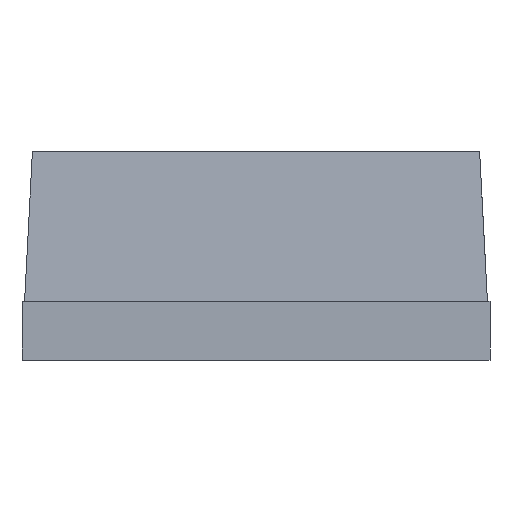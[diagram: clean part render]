
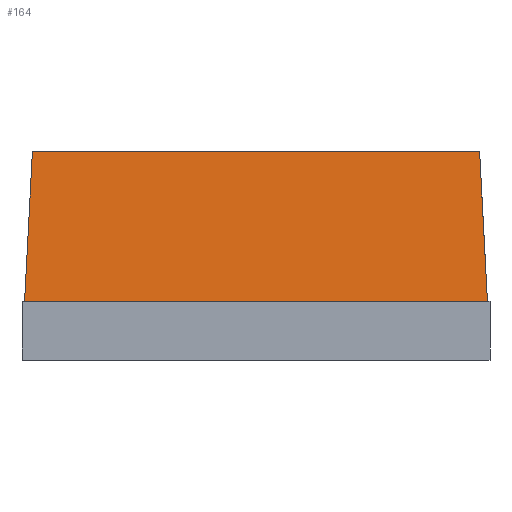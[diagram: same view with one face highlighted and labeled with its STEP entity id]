
A CAD part, front view. The second image highlights one B-rep face of the part: STEP entity #164.
In plain terms, the highlighted planar face has unit normal (0, -0.996, 0.087).
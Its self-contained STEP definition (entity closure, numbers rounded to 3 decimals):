
#164=ADVANCED_FACE('',(#295),#230,.T.);
#230=PLANE('',#1465);
#295=FACE_OUTER_BOUND('',#358,.T.);
#358=EDGE_LOOP('',(#471,#472,#473,#474,#475,#476,#477,#478));
#471=ORIENTED_EDGE('',*,*,#929,.F.);
#472=ORIENTED_EDGE('',*,*,#946,.T.);
#473=ORIENTED_EDGE('',*,*,#923,.T.);
#474=ORIENTED_EDGE('',*,*,#919,.T.);
#475=ORIENTED_EDGE('',*,*,#912,.F.);
#476=ORIENTED_EDGE('',*,*,#921,.T.);
#477=ORIENTED_EDGE('',*,*,#926,.T.);
#478=ORIENTED_EDGE('',*,*,#947,.T.);
#786=VERTEX_POINT('',#1847);
#787=VERTEX_POINT('',#1849);
#793=VERTEX_POINT('',#1863);
#794=VERTEX_POINT('',#1867);
#795=VERTEX_POINT('',#1871);
#796=VERTEX_POINT('',#1875);
#799=VERTEX_POINT('',#1882);
#800=VERTEX_POINT('',#1884);
#912=EDGE_CURVE('',#786,#787,#1095,.T.);
#919=EDGE_CURVE('',#793,#787,#1102,.T.);
#921=EDGE_CURVE('',#786,#794,#1104,.T.);
#923=EDGE_CURVE('',#795,#793,#1106,.T.);
#926=EDGE_CURVE('',#794,#796,#1109,.T.);
#929=EDGE_CURVE('',#799,#800,#1112,.T.);
#946=EDGE_CURVE('',#799,#795,#1129,.T.);
#947=EDGE_CURVE('',#796,#800,#1130,.T.);
#1095=LINE('',#1848,#1276);
#1102=LINE('',#1862,#1283);
#1104=LINE('',#1866,#1285);
#1106=LINE('',#1870,#1287);
#1109=LINE('',#1876,#1290);
#1112=LINE('',#1883,#1293);
#1129=LINE('',#1916,#1310);
#1130=LINE('',#1917,#1311);
#1276=VECTOR('',#1528,1.);
#1283=VECTOR('',#1537,1.);
#1285=VECTOR('',#1541,1.);
#1287=VECTOR('',#1545,1.);
#1290=VECTOR('',#1550,1.);
#1293=VECTOR('',#1555,1.);
#1310=VECTOR('',#1578,1.);
#1311=VECTOR('',#1579,1.);
#1465=AXIS2_PLACEMENT_3D('',#1918,#1580,#1581);
#1528=DIRECTION('',(-1.,0.,0.));
#1537=DIRECTION('',(0.,-0.087,-0.996));
#1541=DIRECTION('',(0.,0.087,0.996));
#1545=DIRECTION('',(-1.,0.,0.));
#1550=DIRECTION('',(-1.,0.,0.));
#1555=DIRECTION('',(1.,0.,0.));
#1578=DIRECTION('',(-0.052,-0.087,-0.995));
#1579=DIRECTION('',(-0.052,0.087,0.995));
#1580=DIRECTION('',(0.,-0.996,0.087));
#1581=DIRECTION('',(0.,-0.087,-0.996));
#1847=CARTESIAN_POINT('',(9.575,-12.557,-2.667));
#1848=CARTESIAN_POINT('',(9.6,-12.557,-2.667));
#1849=CARTESIAN_POINT('',(-0.535,-12.557,-2.667));
#1862=CARTESIAN_POINT('',(-0.535,-12.586,-2.992));
#1863=CARTESIAN_POINT('',(-0.535,-12.446,-1.397));
#1866=CARTESIAN_POINT('',(9.575,-12.556,-2.657));
#1867=CARTESIAN_POINT('',(9.575,-12.446,-1.397));
#1870=CARTESIAN_POINT('',(9.6,-12.446,-1.397));
#1871=CARTESIAN_POINT('',(-0.48,-12.446,-1.397));
#1875=CARTESIAN_POINT('',(9.52,-12.446,-1.397));
#1876=CARTESIAN_POINT('',(9.6,-12.446,-1.397));
#1882=CARTESIAN_POINT('',(-0.311,-12.163,1.833));
#1883=CARTESIAN_POINT('',(9.52,-12.163,1.833));
#1884=CARTESIAN_POINT('',(9.35,-12.163,1.833));
#1916=CARTESIAN_POINT('',(-0.453,-12.4,-0.874));
#1917=CARTESIAN_POINT('',(9.52,-12.446,-1.401));
#1918=CARTESIAN_POINT('',(9.6,-12.446,-1.397));
